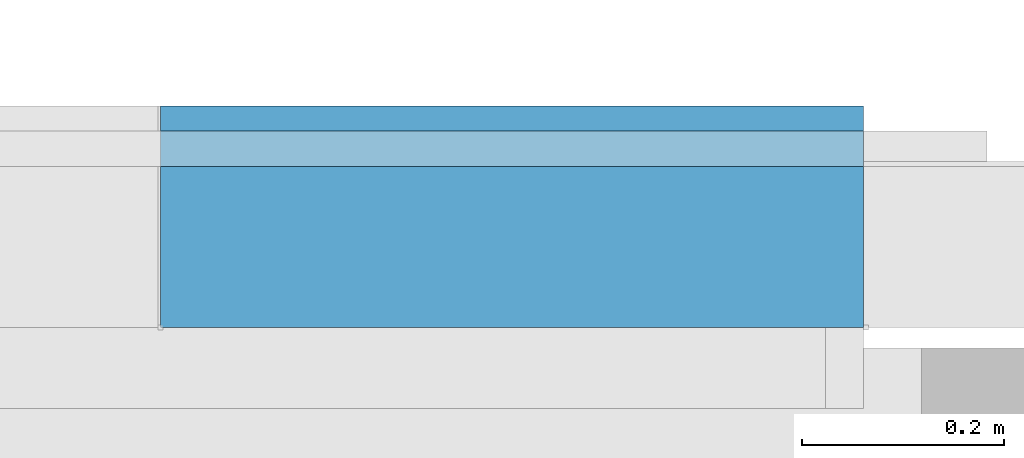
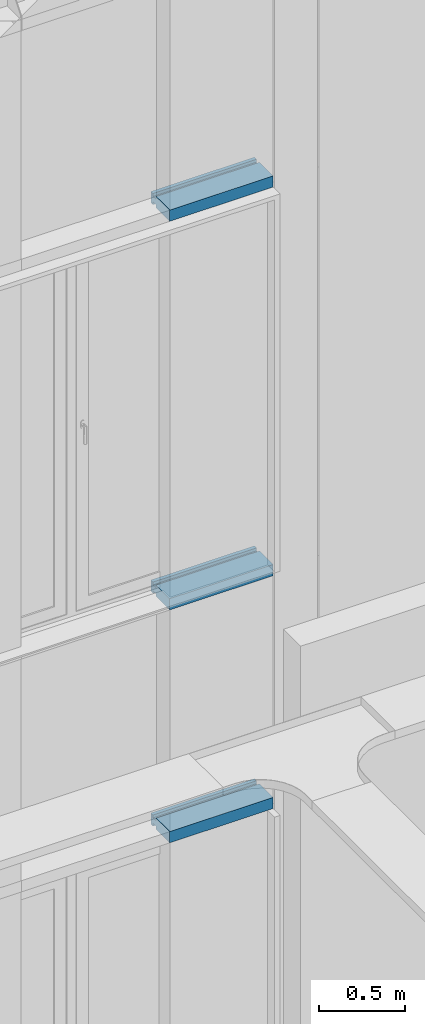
# One storey, part 198 of 302: 3 members, 1 element without a shape of its own.
"""IFC2X3 building model written with IfcOpenShell, lengths in metres."""

from ifc_helpers import new_model, entity, si_unit, converted_unit, derived_unit, direction, frame, origin, place, context, subcontext, project, spatial, polyline, outline, extrude, source, transform, mapped, material, type_object, type_shapes, element, aggregate, save


model = new_model("IFC2X3")

# Units and contexts
model_context = context("Model", 3, precision=1e-05, world=origin(), true_north=direction((6.12303176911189e-17, 1.0)))
body_context = subcontext(model_context, "Body", "Model", "MODEL_VIEW")
ifc_project = project(units=[si_unit("LENGTHUNIT", "METRE"), si_unit("AREAUNIT", "SQUARE_METRE"), si_unit("VOLUMEUNIT", "CUBIC_METRE"), converted_unit("PLANEANGLEUNIT", "DEGREE", entity("IfcRatioMeasure", 0.0174532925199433), si_unit("PLANEANGLEUNIT", "RADIAN"), dimensions=[0, 0, 0, 0, 0, 0, 0]), si_unit("MASSUNIT", "GRAM", prefix="KILO"), derived_unit("MASSDENSITYUNIT", [(si_unit("MASSUNIT", "GRAM", prefix="KILO"), 1), (si_unit("LENGTHUNIT", "METRE"), -3)]), derived_unit("MOMENTOFINERTIAUNIT", [(si_unit("LENGTHUNIT", "METRE"), 4)]), si_unit("TIMEUNIT", "SECOND"), si_unit("FREQUENCYUNIT", "HERTZ"), si_unit("THERMODYNAMICTEMPERATUREUNIT", "DEGREE_CELSIUS"), derived_unit("THERMALTRANSMITTANCEUNIT", [(si_unit("MASSUNIT", "GRAM", prefix="KILO"), 1), (si_unit("THERMODYNAMICTEMPERATUREUNIT", "KELVIN"), -1), (si_unit("TIMEUNIT", "SECOND"), -3)]), derived_unit("VOLUMETRICFLOWRATEUNIT", [(si_unit("LENGTHUNIT", "METRE"), 3), (si_unit("TIMEUNIT", "SECOND"), -1)]), si_unit("ELECTRICCURRENTUNIT", "AMPERE"), si_unit("ELECTRICVOLTAGEUNIT", "VOLT"), si_unit("POWERUNIT", "WATT"), si_unit("FORCEUNIT", "NEWTON", prefix="KILO"), si_unit("ILLUMINANCEUNIT", "LUX"), si_unit("LUMINOUSFLUXUNIT", "LUMEN"), si_unit("LUMINOUSINTENSITYUNIT", "CANDELA"), derived_unit("USERDEFINED", [(si_unit("MASSUNIT", "GRAM", prefix="KILO"), -1), (si_unit("LENGTHUNIT", "METRE"), -2), (si_unit("TIMEUNIT", "SECOND"), 3), (si_unit("LUMINOUSFLUXUNIT", "LUMEN"), 1)]), derived_unit("LINEARVELOCITYUNIT", [(si_unit("LENGTHUNIT", "METRE"), 1), (si_unit("TIMEUNIT", "SECOND"), -1)]), si_unit("PRESSUREUNIT", "PASCAL"), derived_unit("USERDEFINED", [(si_unit("LENGTHUNIT", "METRE"), -2), (si_unit("MASSUNIT", "GRAM", prefix="KILO"), 1), (si_unit("TIMEUNIT", "SECOND"), -2)]), derived_unit("LINEARFORCEUNIT", [(si_unit("MASSUNIT", "GRAM", prefix="KILO"), 1), (si_unit("LENGTHUNIT", "METRE"), 1), (si_unit("TIMEUNIT", "SECOND"), -2), (si_unit("LENGTHUNIT", "METRE"), -1)]), derived_unit("PLANARFORCEUNIT", [(si_unit("MASSUNIT", "GRAM", prefix="KILO"), 1), (si_unit("LENGTHUNIT", "METRE"), 1), (si_unit("TIMEUNIT", "SECOND"), -2), (si_unit("LENGTHUNIT", "METRE"), -2)])], contexts=[model_context])

# Site, building, storey
site_placement = place(None, origin())
site = spatial("IfcSite", under=ifc_project, at=site_placement, Name="Default", CompositionType="ELEMENT")
building_placement = place(site_placement, origin())
building = spatial("IfcBuilding", under=site, at=building_placement, CompositionType="ELEMENT")
storey_placement = place(building_placement, frame((0.0, 0.0, -1.3)))
storey = spatial("IfcBuildingStorey", under=building, at=storey_placement, Name="00_EG", CompositionType="ELEMENT", Elevation=-1.3)

# Curtain wall, members
curtain_wall_type = type_object("IfcCurtainWallType", Name="Fassade:Curtain Wall 1", PredefinedType="NOTDEFINED")
curtain_wall_placement = place(storey_placement, frame((0.0, 0.0, 1.3)))
curtain_wall = element("IfcCurtainWall", 1, at=curtain_wall_placement, inside=storey, type_object=curtain_wall_type, Name="Fassade:Curtain Wall 1", ObjectType="Fassade:Curtain Wall 1")
ifc_material = material(Name="Prepainted_Steel-ArcelorMittal_Construction_HAIRULTRA-35-CORAL-4309-[RAL_3000]")
member_type = type_object("IfcMemberType", Name="Rectangular Mullion:Fassadenrahmen Typ 1", PredefinedType="MULLION", material=ifc_material)
shared_shape = source(origin(), body_context, "Body", "SweptSolid", [
    extrude(outline(polyline([(-0.065, -0.04), (-0.04, -0.04), (-0.04, -0.02), (-0.00499999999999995, -0.02), (-0.00499999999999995, -0.04), (0.155, -0.04), (0.155, 0.04), (-0.00499999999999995, 0.04), (-0.00499999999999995, 0.02), (-0.04, 0.02), (-0.04, 0.04), (-0.065, 0.04), (-0.065, -0.04)])), frame((0.0, 0.155, -0.697500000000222), z_axis=(0.0, 0.0, 1.0), x_axis=(0.0, -1.0, 0.0)), (0.0, 0.0, 1.0), 0.697500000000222),
])
type_shapes(member_type, [shared_shape])
member_1_placement = place(storey_placement, frame((-220.610111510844, 45.578088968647, 4.06999999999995), z_axis=(-1.0, 0.0, 0.0), x_axis=(0.0, 0.0, 1.0)))
member_1 = element("IfcMember", 2, at=member_1_placement, type_object=member_type, material=ifc_material, Name="Rectangular Mullion:Fassadenrahmen Typ 1", ObjectType="Rectangular Mullion:Fassadenrahmen Typ 1", context=body_context, shape_type="MappedRepresentation", body=[
    mapped(shared_shape, transform((0.0, 0.0, 0.0), scale=1.0)),
])
member_2_placement = place(storey_placement, frame((-220.610111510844, 45.578088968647, 5.73), z_axis=(-1.0, 0.0, 0.0), x_axis=(0.0, 0.0, 1.0)))
member_2 = element("IfcMember", 3, at=member_2_placement, type_object=member_type, material=ifc_material, Name="Rectangular Mullion:Fassadenrahmen Typ 1", ObjectType="Rectangular Mullion:Fassadenrahmen Typ 1", context=body_context, shape_type="MappedRepresentation", body=[
    mapped(shared_shape, transform((0.0, 0.0, 0.0), scale=1.0)),
])
member_3_placement = place(storey_placement, frame((-220.610111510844, 45.578088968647, 8.49999999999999), z_axis=(-1.0, 0.0, 0.0), x_axis=(0.0, 0.0, 1.0)))
member_3 = element("IfcMember", 4, at=member_3_placement, type_object=member_type, material=ifc_material, Name="Rectangular Mullion:Fassadenrahmen Typ 1", ObjectType="Rectangular Mullion:Fassadenrahmen Typ 1", context=body_context, shape_type="MappedRepresentation", body=[
    mapped(shared_shape, transform((0.0, 0.0, 0.0), scale=1.0)),
])
aggregate(curtain_wall, [member_1, member_2, member_3])

save(model, "model.ifc")
